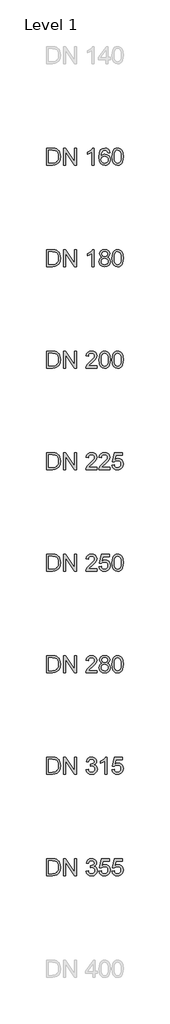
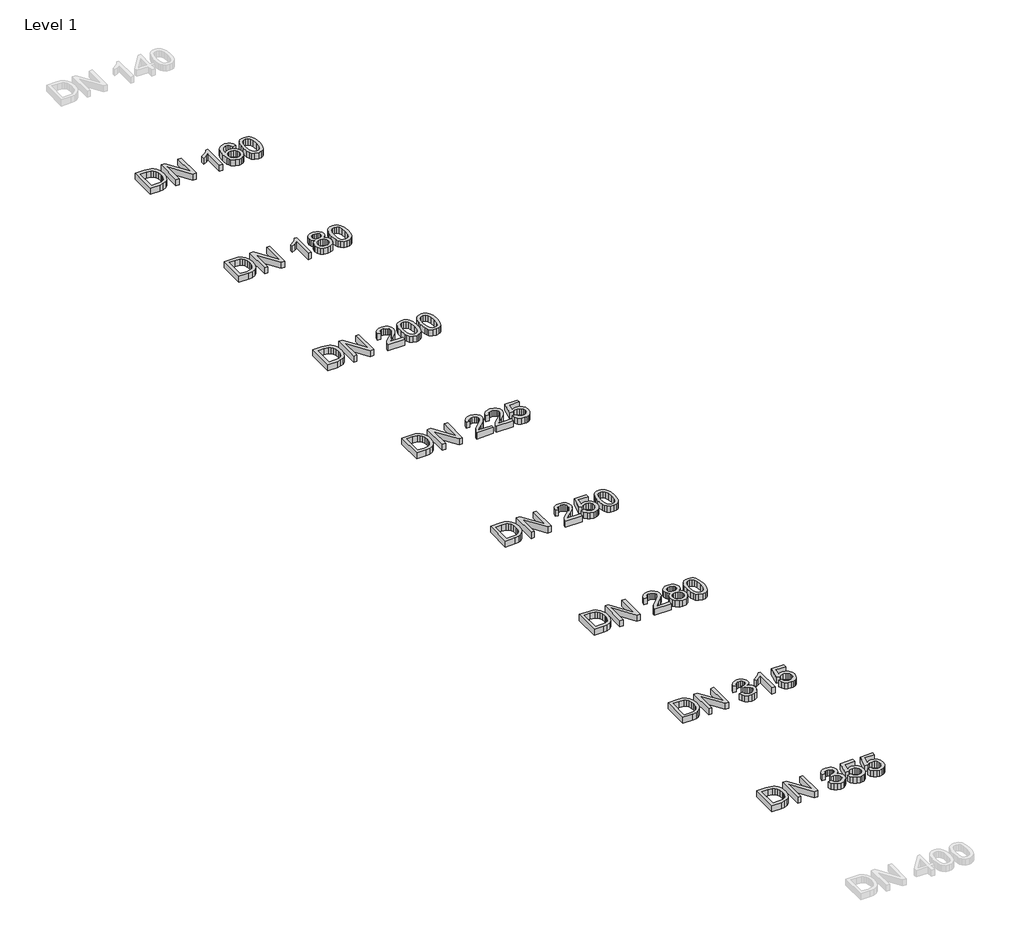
# One storey, part 3 of 17: 8 proxies.
"""IFC4 building model written with IfcOpenShell, lengths in millimetres."""

from ifc_helpers import new_model, si_unit, origin, origin_with_axes, place, context, project, spatial, polyline, outline, extrude, element, save

model = new_model("IFC4")

# Units and contexts
model_context = context("Model", 3, world=origin())
ifc_project = project(units=[si_unit("LENGTHUNIT", "METRE", prefix="MILLI")], contexts=[model_context])

# Site, building, storey
site = spatial("IfcSite", under=ifc_project)
building = spatial("IfcBuilding", under=site)
storey = spatial("IfcBuildingStorey", under=building, Name="Level 1", Elevation=0.0)

# Proxies
placement = place(None, origin())
element("IfcBuildingElementProxy", 1, Name="200mm Arial", ObjectType="200mm Arial", at=placement, inside=storey, context=model_context, shape_type="SweptSolid", body=[
    extrude(outline(polyline([(-19491.3116028, -41313.949573), (-19491.3116028, -41113.0369527), (-19422.0026349, -41113.0369527), (-19386.1464031, -41115.9309577), (-19370.1312736, -41121.5105013), (-19356.6177416, -41130.302881), (-19342.724065, -41145.606772), (-19332.8280393, -41164.6385338), (-19326.9051392, -41187.0302846), (-19324.9308391, -41212.4141423), (-19330.2773908, -41252.9547382), (-19344.0116519, -41282.2136195), (-19362.3567008, -41300.436041), (-19386.3671323, -41310.5160077), (-19418.6671715, -41313.949573), (-19491.3116028, -41313.949573)]), holes=[polyline([(-19466.1975253, -41288.8354954), (-19421.7573803, -41288.8354954), (-19389.4328156, -41285.2057264), (-19370.7934612, -41274.9540815), (-19362.0685265, -41264.0831685), (-19355.5140957, -41250.0116822), (-19351.4122114, -41232.6783089), (-19350.0449167, -41212.0217348), (-19352.7243239, -41184.6513144), (-19360.7625455, -41164.4423301), (-19372.6390025, -41150.5609162), (-19386.8331162, -41142.1732067), (-19422.4440933, -41138.1510302), (-19466.1975253, -41138.1510302), (-19466.1975253, -41288.8354954)])]), origin_with_axes(), (0.0, 0.0, 1.0), 50.0),
    extrude(outline(polyline([(-19290.3989825, -41313.949573), (-19290.3989825, -41113.0369527), (-19263.5190714, -41113.0369527), (-19158.5500754, -41272.2072292), (-19158.5500754, -41113.0369527), (-19133.4359979, -41113.0369527), (-19133.4359979, -41313.949573), (-19160.315909, -41313.949573), (-19265.284905, -41154.7302454), (-19265.284905, -41313.949573), (-19290.3989825, -41313.949573)])), origin_with_axes(), (0.0, 0.0, 1.0), 50.0),
    extrude(outline(polyline([(-18926.2448582, -41313.949573), (-18951.3589358, -41313.949573), (-18951.3589358, -41157.3789958), (-18975.1486381, -41174.3260931), (-19001.5870908, -41187.0057592), (-19001.5870908, -41163.2651077), (-18964.7743658, -41139.769711), (-18951.3037535, -41126.1948653), (-18942.431666, -41113.0369527), (-18926.2448582, -41113.0369527), (-18926.2448582, -41313.949573)])), origin_with_axes(), (0.0, 0.0, 1.0), 50.0),
    extrude(outline(polyline([(-18737.8892767, -41166.4043674), (-18763.0033542, -41169.5436271), (-18772.5192352, -41148.5988789), (-18783.9113143, -41140.7629924), (-18797.6823636, -41138.1510302), (-18820.3438945, -41144.2333458), (-18829.7800677, -41153.8411973), (-18837.4871955, -41167.066555), (-18842.6927257, -41185.7733545), (-18844.6241062, -41211.8255311), (-18834.5502709, -41200.0717013), (-18822.4776101, -41191.7882251), (-18809.0805741, -41186.8770005), (-18795.0336133, -41185.2399256), (-18771.8325221, -41189.7158232), (-18752.3593018, -41203.143516), (-18739.1523382, -41223.6590686), (-18734.750017, -41249.3985455), (-18736.8224189, -41267.3818437), (-18743.0396246, -41284.0530295), (-18752.8865994, -41298.1919608), (-18765.8483083, -41308.5784958), (-18781.3361403, -41314.9612484), (-18798.7614842, -41317.0888326), (-18827.2539447, -41311.4479754), (-18849.9461324, -41294.5254036), (-18858.6051549, -41281.4165418), (-18864.7901709, -41264.6533856), (-18869.7381838, -41220.1641897), (-18864.2444793, -41170.144501), (-18857.3773487, -41151.0667539), (-18847.7633659, -41135.9437382), (-18837.3431084, -41125.9220195), (-18825.2612505, -41118.763649), (-18796.1127338, -41113.0369527), (-18774.0766023, -41116.5808825), (-18756.4305292, -41127.2126722), (-18744.0696942, -41144.0984558), (-18737.8892767, -41166.4043674)]), holes=[polyline([(-18844.6241062, -41249.0061381), (-18838.8115707, -41270.7602267), (-18823.3605269, -41286.554627), (-18800.7235215, -41291.9747551), (-18784.1504376, -41289.1665892), (-18771.1212836, -41280.7420915), (-18762.6783918, -41267.4983397), (-18759.8640945, -41250.2324114), (-18762.6416036, -41233.6593275), (-18770.9741308, -41221.022581), (-18784.224014, -41213.0211476), (-18801.7535911, -41210.3540031), (-18818.3021495, -41213.0211476), (-18832.1406439, -41221.022581), (-18841.5032406, -41233.3527592), (-18844.6241062, -41249.0061381)])]), origin_with_axes(), (0.0, 0.0, 1.0), 50.0),
    extrude(outline(polyline([(-18712.7751992, -41215.1119436), (-18710.9296578, -41182.9529258), (-18705.3930338, -41157.3054194), (-18696.2205094, -41137.7770168), (-18683.4672669, -41123.9753106), (-18667.0413358, -41115.7715422), (-18646.8507456, -41113.0369527), (-18631.3751764, -41114.6556334), (-18617.5182879, -41119.5116758), (-18605.930005, -41127.4150073), (-18597.2602527, -41138.1755557), (-18585.4880288, -41167.9004209), (-18580.9262921, -41215.1119436), (-18582.7534393, -41247.0870203), (-18588.2348811, -41272.6732131), (-18597.3522232, -41292.2200098), (-18610.0870716, -41306.0768983), (-18626.5497909, -41314.335849), (-18646.8507456, -41317.0888326), (-18672.9458418, -41312.3063667), (-18692.7624186, -41297.9589689), (-18701.5180101, -41282.8298218), (-18707.772004, -41263.9789353), (-18712.7751992, -41215.1119436)]), holes=[polyline([(-18687.6611216, -41215.0628927), (-18684.7180657, -41254.5672876), (-18675.8888978, -41277.4311536), (-18662.7432478, -41288.3388547), (-18646.8507456, -41291.9747551), (-18630.9582434, -41288.326592), (-18617.8125935, -41277.3821026), (-18608.9834256, -41254.5059739), (-18606.0403696, -41215.0628927), (-18608.8853237, -41176.4475459), (-18617.420186, -41153.4058703), (-18630.5413105, -41141.9647402), (-18647.1450512, -41138.1510302), (-18662.8658751, -41141.5110191), (-18675.4964903, -41151.5909857), (-18684.6199638, -41176.0674012), (-18687.6611216, -41215.0628927)])]), origin_with_axes(), (0.0, 0.0, 1.0), 50.0),
])
element("IfcBuildingElementProxy", 2, Name="200mm Arial", ObjectType="200mm Arial", at=placement, inside=storey, context=model_context, shape_type="SweptSolid", body=[
    extrude(outline(polyline([(-19491.3116028, -43713.949573), (-19491.3116028, -43513.0369527), (-19422.0026349, -43513.0369527), (-19386.1464031, -43515.9309577), (-19370.1312736, -43521.5105013), (-19356.6177416, -43530.302881), (-19342.724065, -43545.606772), (-19332.8280393, -43564.6385338), (-19326.9051392, -43587.0302846), (-19324.9308391, -43612.4141423), (-19330.2773908, -43652.9547382), (-19344.0116519, -43682.2136195), (-19362.3567008, -43700.436041), (-19386.3671323, -43710.5160077), (-19418.6671715, -43713.949573), (-19491.3116028, -43713.949573)]), holes=[polyline([(-19466.1975253, -43688.8354954), (-19421.7573803, -43688.8354954), (-19389.4328156, -43685.2057264), (-19370.7934612, -43674.9540815), (-19362.0685265, -43664.0831685), (-19355.5140957, -43650.0116822), (-19351.4122114, -43632.6783089), (-19350.0449167, -43612.0217348), (-19352.7243239, -43584.6513144), (-19360.7625455, -43564.4423301), (-19372.6390025, -43550.5609162), (-19386.8331162, -43542.1732067), (-19422.4440933, -43538.1510302), (-19466.1975253, -43538.1510302), (-19466.1975253, -43688.8354954)])]), origin_with_axes(), (0.0, 0.0, 1.0), 50.0),
    extrude(outline(polyline([(-19290.3989825, -43713.949573), (-19290.3989825, -43513.0369527), (-19263.5190714, -43513.0369527), (-19158.5500754, -43672.2072292), (-19158.5500754, -43513.0369527), (-19133.4359979, -43513.0369527), (-19133.4359979, -43713.949573), (-19160.315909, -43713.949573), (-19265.284905, -43554.7302454), (-19265.284905, -43713.949573), (-19290.3989825, -43713.949573)])), origin_with_axes(), (0.0, 0.0, 1.0), 50.0),
    extrude(outline(polyline([(-18891.7130016, -43688.8354954), (-18891.7130016, -43713.949573), (-19023.5619087, -43713.949573), (-19020.8641074, -43696.6345937), (-19005.6092673, -43669.9754118), (-18974.1676195, -43640.8636832), (-18930.806595, -43599.0232377), (-18922.6764029, -43584.6022634), (-18919.9663388, -43570.5736967), (-18922.5231187, -43557.9982638), (-18930.1934583, -43547.5442838), (-18941.9840762, -43540.4993436), (-18956.9016912, -43538.1510302), (-18972.5673328, -43540.4441613), (-18984.7380955, -43547.3235546), (-18992.5923761, -43558.2496499), (-18995.3085714, -43572.6828868), (-19020.422649, -43569.5436271), (-19014.334202, -43545.2511527), (-19001.1701579, -43527.5069778), (-18981.6172299, -43516.6544589), (-18956.3621309, -43513.0369527), (-18930.9230909, -43517.0591291), (-18911.4069511, -43529.1256586), (-18898.9909337, -43547.1518763), (-18894.8522613, -43569.0531178), (-18899.3158962, -43592.8673456), (-18914.1538033, -43617.4909138), (-18950.1326624, -43651.9001431), (-18979.0236618, -43676.0577275), (-18990.3544272, -43688.8354954), (-18891.7130016, -43688.8354954)])), origin_with_axes(), (0.0, 0.0, 1.0), 50.0),
    extrude(outline(polyline([(-18866.5989241, -43615.1119436), (-18864.7533827, -43582.9529258), (-18859.2167587, -43557.3054194), (-18850.0442343, -43537.7770168), (-18837.2909918, -43523.9753106), (-18820.8650607, -43515.7715422), (-18800.6744705, -43513.0369527), (-18785.1989013, -43514.6556334), (-18771.3420128, -43519.5116758), (-18759.7537299, -43527.4150073), (-18751.0839776, -43538.1755557), (-18739.3117537, -43567.9004209), (-18734.750017, -43615.1119436), (-18736.5771642, -43647.0870203), (-18742.058606, -43672.6732131), (-18751.1759481, -43692.2200098), (-18763.9107965, -43706.0768983), (-18780.3735158, -43714.335849), (-18800.6744705, -43717.0888326), (-18826.7695667, -43712.3063667), (-18846.5861435, -43697.9589689), (-18855.341735, -43682.8298218), (-18861.5957289, -43663.9789353), (-18866.5989241, -43615.1119436)]), holes=[polyline([(-18841.4848465, -43615.0628927), (-18838.5417906, -43654.5672876), (-18829.7126227, -43677.4311536), (-18816.5669727, -43688.3388547), (-18800.6744705, -43691.9747551), (-18784.7819683, -43688.326592), (-18771.6363184, -43677.3821026), (-18762.8071505, -43654.5059739), (-18759.8640945, -43615.0628927), (-18762.7090486, -43576.4475459), (-18771.2439109, -43553.4058703), (-18784.3650354, -43541.9647402), (-18800.9687761, -43538.1510302), (-18816.6896001, -43541.5110191), (-18829.3202152, -43551.5909857), (-18838.4436887, -43576.0674012), (-18841.4848465, -43615.0628927)])]), origin_with_axes(), (0.0, 0.0, 1.0), 50.0),
    extrude(outline(polyline([(-18712.7751992, -43615.1119436), (-18710.9296578, -43582.9529258), (-18705.3930338, -43557.3054194), (-18696.2205094, -43537.7770168), (-18683.4672669, -43523.9753106), (-18667.0413358, -43515.7715422), (-18646.8507456, -43513.0369527), (-18631.3751764, -43514.6556334), (-18617.5182879, -43519.5116758), (-18605.930005, -43527.4150073), (-18597.2602527, -43538.1755557), (-18585.4880288, -43567.9004209), (-18580.9262921, -43615.1119436), (-18582.7534393, -43647.0870203), (-18588.2348811, -43672.6732131), (-18597.3522232, -43692.2200098), (-18610.0870716, -43706.0768983), (-18626.5497909, -43714.335849), (-18646.8507456, -43717.0888326), (-18672.9458418, -43712.3063667), (-18692.7624186, -43697.9589689), (-18701.5180101, -43682.8298218), (-18707.772004, -43663.9789353), (-18712.7751992, -43615.1119436)]), holes=[polyline([(-18687.6611216, -43615.0628927), (-18684.7180657, -43654.5672876), (-18675.8888978, -43677.4311536), (-18662.7432478, -43688.3388547), (-18646.8507456, -43691.9747551), (-18630.9582434, -43688.326592), (-18617.8125935, -43677.3821026), (-18608.9834256, -43654.5059739), (-18606.0403696, -43615.0628927), (-18608.8853237, -43576.4475459), (-18617.420186, -43553.4058703), (-18630.5413105, -43541.9647402), (-18647.1450512, -43538.1510302), (-18662.8658751, -43541.5110191), (-18675.4964903, -43551.5909857), (-18684.6199638, -43576.0674012), (-18687.6611216, -43615.0628927)])]), origin_with_axes(), (0.0, 0.0, 1.0), 50.0),
])
element("IfcBuildingElementProxy", 3, Name="200mm Arial", ObjectType="200mm Arial", at=placement, inside=storey, context=model_context, shape_type="SweptSolid", body=[
    extrude(outline(polyline([(-19491.3116028, -46113.949573), (-19491.3116028, -45913.0369527), (-19422.0026349, -45913.0369527), (-19386.1464031, -45915.9309577), (-19370.1312736, -45921.5105013), (-19356.6177416, -45930.302881), (-19342.724065, -45945.606772), (-19332.8280393, -45964.6385338), (-19326.9051392, -45987.0302846), (-19324.9308391, -46012.4141423), (-19330.2773908, -46052.9547382), (-19344.0116519, -46082.2136195), (-19362.3567008, -46100.436041), (-19386.3671323, -46110.5160077), (-19418.6671715, -46113.949573), (-19491.3116028, -46113.949573)]), holes=[polyline([(-19466.1975253, -46088.8354954), (-19421.7573803, -46088.8354954), (-19389.4328156, -46085.2057264), (-19370.7934612, -46074.9540815), (-19362.0685265, -46064.0831685), (-19355.5140957, -46050.0116822), (-19351.4122114, -46032.6783089), (-19350.0449167, -46012.0217348), (-19352.7243239, -45984.6513144), (-19360.7625455, -45964.4423301), (-19372.6390025, -45950.5609162), (-19386.8331162, -45942.1732067), (-19422.4440933, -45938.1510302), (-19466.1975253, -45938.1510302), (-19466.1975253, -46088.8354954)])]), origin_with_axes(), (0.0, 0.0, 1.0), 50.0),
    extrude(outline(polyline([(-19290.3989825, -46113.949573), (-19290.3989825, -45913.0369527), (-19263.5190714, -45913.0369527), (-19158.5500754, -46072.2072292), (-19158.5500754, -45913.0369527), (-19133.4359979, -45913.0369527), (-19133.4359979, -46113.949573), (-19160.315909, -46113.949573), (-19265.284905, -45954.7302454), (-19265.284905, -46113.949573), (-19290.3989825, -46113.949573)])), origin_with_axes(), (0.0, 0.0, 1.0), 50.0),
    extrude(outline(polyline([(-18891.7130016, -46088.8354954), (-18891.7130016, -46113.949573), (-19023.5619087, -46113.949573), (-19020.8641074, -46096.6345937), (-19005.6092673, -46069.9754118), (-18974.1676195, -46040.8636832), (-18930.806595, -45999.0232377), (-18922.6764029, -45984.6022634), (-18919.9663388, -45970.5736967), (-18922.5231187, -45957.9982638), (-18930.1934583, -45947.5442838), (-18941.9840762, -45940.4993436), (-18956.9016912, -45938.1510302), (-18972.5673328, -45940.4441613), (-18984.7380955, -45947.3235546), (-18992.5923761, -45958.2496499), (-18995.3085714, -45972.6828868), (-19020.422649, -45969.5436271), (-19014.334202, -45945.2511527), (-19001.1701579, -45927.5069778), (-18981.6172299, -45916.6544589), (-18956.3621309, -45913.0369527), (-18930.9230909, -45917.0591291), (-18911.4069511, -45929.1256586), (-18898.9909337, -45947.1518763), (-18894.8522613, -45969.0531178), (-18899.3158962, -45992.8673456), (-18914.1538033, -46017.4909138), (-18950.1326624, -46051.9001431), (-18979.0236618, -46076.0577275), (-18990.3544272, -46088.8354954), (-18891.7130016, -46088.8354954)])), origin_with_axes(), (0.0, 0.0, 1.0), 50.0),
    extrude(outline(polyline([(-18866.5989241, -46060.5821582), (-18841.4848465, -46057.4428985), (-18836.8740589, -46072.5199289), (-18828.8297059, -46083.3172655), (-18817.3885758, -46089.8103827), (-18802.5874569, -46091.9747551), (-18784.5857646, -46088.9642541), (-18771.0967581, -46079.9327511), (-18762.6722604, -46065.9225785), (-18759.8640945, -46047.9760685), (-18762.4944508, -46031.0780222), (-18770.3855196, -46018.1531014), (-18783.5986146, -46009.9493329), (-18802.1950494, -46007.2147434), (-18824.2434437, -46011.5802764), (-18838.3455868, -46022.9110419), (-18863.4596644, -46019.7717822), (-18841.4848465, -45916.1762123), (-18744.1677961, -45916.1762123), (-18744.1677961, -45941.2902899), (-18821.1777604, -45941.2902899), (-18831.9199147, -45996.619742), (-18813.979536, -45985.7304349), (-18795.1807661, -45982.1006659), (-18771.7160261, -45986.601089), (-18752.2366745, -46000.1023582), (-18739.1216814, -46020.6792244), (-18734.750017, -46046.4064386), (-18738.6863543, -46071.5205162), (-18750.4953664, -46093.0048247), (-18760.9309523, -46103.5415782), (-18773.1078464, -46111.0678307), (-18787.0260485, -46115.5835821), (-18802.6855588, -46117.0888326), (-18827.3520466, -46113.2199403), (-18847.0030765, -46101.6132634), (-18860.4736888, -46083.6177025), (-18866.5989241, -46060.5821582)])), origin_with_axes(), (0.0, 0.0, 1.0), 50.0),
    extrude(outline(polyline([(-18712.7751992, -46015.1119436), (-18710.9296578, -45982.9529258), (-18705.3930338, -45957.3054194), (-18696.2205094, -45937.7770168), (-18683.4672669, -45923.9753106), (-18667.0413358, -45915.7715422), (-18646.8507456, -45913.0369527), (-18631.3751764, -45914.6556334), (-18617.5182879, -45919.5116758), (-18605.930005, -45927.4150073), (-18597.2602527, -45938.1755557), (-18585.4880288, -45967.9004209), (-18580.9262921, -46015.1119436), (-18582.7534393, -46047.0870203), (-18588.2348811, -46072.6732131), (-18597.3522232, -46092.2200098), (-18610.0870716, -46106.0768983), (-18626.5497909, -46114.335849), (-18646.8507456, -46117.0888326), (-18672.9458418, -46112.3063667), (-18692.7624186, -46097.9589689), (-18701.5180101, -46082.8298218), (-18707.772004, -46063.9789353), (-18712.7751992, -46015.1119436)]), holes=[polyline([(-18687.6611216, -46015.0628927), (-18684.7180657, -46054.5672876), (-18675.8888978, -46077.4311536), (-18662.7432478, -46088.3388547), (-18646.8507456, -46091.9747551), (-18630.9582434, -46088.326592), (-18617.8125935, -46077.3821026), (-18608.9834256, -46054.5059739), (-18606.0403696, -46015.0628927), (-18608.8853237, -45976.4475459), (-18617.420186, -45953.4058703), (-18630.5413105, -45941.9647402), (-18647.1450512, -45938.1510302), (-18662.8658751, -45941.5110191), (-18675.4964903, -45951.5909857), (-18684.6199638, -45976.0674012), (-18687.6611216, -46015.0628927)])]), origin_with_axes(), (0.0, 0.0, 1.0), 50.0),
])
element("IfcBuildingElementProxy", 4, Name="200mm Arial", ObjectType="200mm Arial", at=placement, inside=storey, context=model_context, shape_type="SweptSolid", body=[
    extrude(outline(polyline([(-19491.3116028, -48513.949573), (-19491.3116028, -48313.0369527), (-19422.0026349, -48313.0369527), (-19386.1464031, -48315.9309577), (-19370.1312736, -48321.5105013), (-19356.6177416, -48330.302881), (-19342.724065, -48345.606772), (-19332.8280393, -48364.6385338), (-19326.9051392, -48387.0302846), (-19324.9308391, -48412.4141423), (-19330.2773908, -48452.9547382), (-19344.0116519, -48482.2136195), (-19362.3567008, -48500.436041), (-19386.3671323, -48510.5160077), (-19418.6671715, -48513.949573), (-19491.3116028, -48513.949573)]), holes=[polyline([(-19466.1975253, -48488.8354954), (-19421.7573803, -48488.8354954), (-19389.4328156, -48485.2057264), (-19370.7934612, -48474.9540815), (-19362.0685265, -48464.0831685), (-19355.5140957, -48450.0116822), (-19351.4122114, -48432.6783089), (-19350.0449167, -48412.0217348), (-19352.7243239, -48384.6513144), (-19360.7625455, -48364.4423301), (-19372.6390025, -48350.5609162), (-19386.8331162, -48342.1732067), (-19422.4440933, -48338.1510302), (-19466.1975253, -48338.1510302), (-19466.1975253, -48488.8354954)])]), origin_with_axes(), (0.0, 0.0, 1.0), 50.0),
    extrude(outline(polyline([(-19290.3989825, -48513.949573), (-19290.3989825, -48313.0369527), (-19263.5190714, -48313.0369527), (-19158.5500754, -48472.2072292), (-19158.5500754, -48313.0369527), (-19133.4359979, -48313.0369527), (-19133.4359979, -48513.949573), (-19160.315909, -48513.949573), (-19265.284905, -48354.7302454), (-19265.284905, -48513.949573), (-19290.3989825, -48513.949573)])), origin_with_axes(), (0.0, 0.0, 1.0), 50.0),
    extrude(outline(polyline([(-19020.422649, -48460.5821582), (-18995.3085714, -48457.4428985), (-18989.6861083, -48473.2250361), (-18981.451683, -48483.8813512), (-18970.2006253, -48489.9514041), (-18955.528265, -48491.9747551), (-18938.3113877, -48489.1911147), (-18925.0185849, -48480.8401934), (-18916.5205108, -48468.3812565), (-18913.6878195, -48453.2735692), (-18916.4959853, -48438.9323028), (-18924.920483, -48427.3011004), (-18937.6737255, -48419.5939726), (-18953.4681259, -48417.02493), (-18971.0774107, -48419.7717822), (-18968.2815075, -48394.6577047), (-18964.2593311, -48394.9520102), (-18949.2129575, -48393.1493885), (-18935.7607392, -48387.7415231), (-18926.2693837, -48378.5935242), (-18923.1055985, -48365.5705016), (-18925.3987296, -48354.7241141), (-18932.2781229, -48345.925603), (-18942.7750225, -48340.0946734), (-18955.9206725, -48338.1510302), (-18969.0908479, -48340.1130675), (-18979.8575277, -48345.9991794), (-18987.7179396, -48355.809366), (-18992.1693118, -48369.5436271), (-19017.2833893, -48366.4043674), (-19009.8889612, -48343.8532011), (-18996.7310485, -48327.0164685), (-18978.7293562, -48316.5318316), (-18956.8035893, -48313.0369527), (-18941.0153203, -48314.7598667), (-18926.5146384, -48319.9286087), (-18914.2886934, -48328.0833263), (-18905.3246354, -48338.7641669), (-18899.8247996, -48351.0698196), (-18897.991521, -48364.0989736), (-18899.7328291, -48376.2390794), (-18904.9567534, -48387.2510138), (-18913.5897176, -48396.6320047), (-18925.5581452, -48403.87928), (-18909.8373212, -48410.2313758), (-18898.1877247, -48421.0471064), (-18890.9772376, -48435.7378608), (-18888.5737419, -48453.7150276), (-18893.3807333, -48478.191443), (-18907.8017075, -48498.645682), (-18929.5680589, -48512.478045), (-18956.4111818, -48517.0888326), (-18980.6913935, -48513.1524953), (-19000.4589194, -48501.3434833), (-19014.2054433, -48483.2804773), (-19020.422649, -48460.5821582)])), origin_with_axes(), (0.0, 0.0, 1.0), 50.0),
    extrude(outline(polyline([(-18772.4211333, -48513.949573), (-18797.5352108, -48513.949573), (-18797.5352108, -48357.3789958), (-18821.3249132, -48374.3260931), (-18847.7633659, -48387.0057592), (-18847.7633659, -48363.2651077), (-18810.9506409, -48339.769711), (-18797.4800285, -48326.1948653), (-18788.6079411, -48313.0369527), (-18772.4211333, -48313.0369527), (-18772.4211333, -48513.949573)])), origin_with_axes(), (0.0, 0.0, 1.0), 50.0),
    extrude(outline(polyline([(-18712.7751992, -48460.5821582), (-18687.6611216, -48457.4428985), (-18683.0503339, -48472.5199289), (-18675.005981, -48483.3172655), (-18663.5648509, -48489.8103827), (-18648.763732, -48491.9747551), (-18630.7620397, -48488.9642541), (-18617.2730332, -48479.9327511), (-18608.8485355, -48465.9225785), (-18606.0403696, -48447.9760685), (-18608.6707259, -48431.0780222), (-18616.5617947, -48418.1531014), (-18629.7748897, -48409.9493329), (-18648.3713245, -48407.2147434), (-18670.4197188, -48411.5802764), (-18684.5218619, -48422.9110419), (-18709.6359395, -48419.7717822), (-18687.6611216, -48316.1762123), (-18590.3440712, -48316.1762123), (-18590.3440712, -48341.2902899), (-18667.3540355, -48341.2902899), (-18678.0961897, -48396.619742), (-18660.1558111, -48385.7304349), (-18641.3570412, -48382.1006659), (-18617.8923012, -48386.601089), (-18598.4129496, -48400.1023582), (-18585.2979565, -48420.6792244), (-18580.9262921, -48446.4064386), (-18584.8626294, -48471.5205162), (-18596.6716415, -48493.0048247), (-18607.1072274, -48503.5415782), (-18619.2841214, -48511.0678307), (-18633.2023236, -48515.5835821), (-18648.8618339, -48517.0888326), (-18673.5283216, -48513.2199403), (-18693.1793515, -48501.6132634), (-18706.6499639, -48483.6177025), (-18712.7751992, -48460.5821582)])), origin_with_axes(), (0.0, 0.0, 1.0), 50.0),
])
element("IfcBuildingElementProxy", 5, Name="200mm Arial", ObjectType="200mm Arial", at=placement, inside=storey, context=model_context, shape_type="SweptSolid", body=[
    extrude(outline(polyline([(-19491.3116028, -42513.949573), (-19491.3116028, -42313.0369527), (-19422.0026349, -42313.0369527), (-19386.1464031, -42315.9309577), (-19370.1312736, -42321.5105013), (-19356.6177416, -42330.302881), (-19342.724065, -42345.606772), (-19332.8280393, -42364.6385338), (-19326.9051392, -42387.0302846), (-19324.9308391, -42412.4141423), (-19330.2773908, -42452.9547382), (-19344.0116519, -42482.2136195), (-19362.3567008, -42500.436041), (-19386.3671323, -42510.5160077), (-19418.6671715, -42513.949573), (-19491.3116028, -42513.949573)]), holes=[polyline([(-19466.1975253, -42488.8354954), (-19421.7573803, -42488.8354954), (-19389.4328156, -42485.2057264), (-19370.7934612, -42474.9540815), (-19362.0685265, -42464.0831685), (-19355.5140957, -42450.0116822), (-19351.4122114, -42432.6783089), (-19350.0449167, -42412.0217348), (-19352.7243239, -42384.6513144), (-19360.7625455, -42364.4423301), (-19372.6390025, -42350.5609162), (-19386.8331162, -42342.1732067), (-19422.4440933, -42338.1510302), (-19466.1975253, -42338.1510302), (-19466.1975253, -42488.8354954)])]), origin_with_axes(), (0.0, 0.0, 1.0), 50.0),
    extrude(outline(polyline([(-19290.3989825, -42513.949573), (-19290.3989825, -42313.0369527), (-19263.5190714, -42313.0369527), (-19158.5500754, -42472.2072292), (-19158.5500754, -42313.0369527), (-19133.4359979, -42313.0369527), (-19133.4359979, -42513.949573), (-19160.315909, -42513.949573), (-19265.284905, -42354.7302454), (-19265.284905, -42513.949573), (-19290.3989825, -42513.949573)])), origin_with_axes(), (0.0, 0.0, 1.0), 50.0),
    extrude(outline(polyline([(-18926.2448582, -42513.949573), (-18951.3589358, -42513.949573), (-18951.3589358, -42357.3789958), (-18975.1486381, -42374.3260931), (-19001.5870908, -42387.0057592), (-19001.5870908, -42363.2651077), (-18964.7743658, -42339.769711), (-18951.3037535, -42326.1948653), (-18942.431666, -42313.0369527), (-18926.2448582, -42313.0369527), (-18926.2448582, -42513.949573)])), origin_with_axes(), (0.0, 0.0, 1.0), 50.0),
    extrude(outline(polyline([(-18830.0069283, -42403.2906688), (-18843.4530152, -42396.6687929), (-18852.8891884, -42387.6924722), (-18858.4626006, -42376.5456478), (-18860.3204047, -42363.4122605), (-18856.2737027, -42343.7796247), (-18844.1335969, -42327.5560287), (-18825.2612505, -42316.6667217), (-18801.0178271, -42313.0369527), (-18776.6272508, -42316.7525608), (-18757.5096498, -42327.8993853), (-18745.1488147, -42344.3804986), (-18741.0285364, -42364.0989736), (-18742.861815, -42376.8092965), (-18748.3616508, -42387.7660486), (-18757.5893575, -42396.687187), (-18770.6062488, -42403.2906688), (-18755.1490736, -42411.255314), (-18743.8980159, -42422.9846183), (-18737.0370167, -42437.9144959), (-18734.750017, -42455.4808612), (-18739.2872283, -42479.4912927), (-18752.8988621, -42499.332395), (-18773.9171868, -42512.6497232), (-18800.6744705, -42517.0888326), (-18827.4317543, -42512.6313291), (-18848.450079, -42499.2588186), (-18862.0617128, -42479.227644), (-18866.5989241, -42454.7941481), (-18864.2199538, -42436.5472012), (-18857.0830431, -42421.5376158), (-18845.5560739, -42410.2804267), (-18830.0069283, -42403.2906688)]), holes=[polyline([(-18835.2063271, -42364.1480245), (-18832.9806411, -42375.110908), (-18826.3035829, -42383.8664995), (-18815.3713562, -42389.6054586), (-18800.3801649, -42391.518445), (-18785.7384615, -42389.6177213), (-18774.9717818, -42383.9155504), (-18768.3499059, -42375.4542645), (-18766.1426139, -42365.276196), (-18768.4234823, -42354.7118513), (-18775.2660874, -42345.974654), (-18786.1799199, -42340.1069361), (-18800.6744705, -42338.1510302), (-18815.2609916, -42340.0640166), (-18826.1564301, -42345.8029757), (-18832.9438529, -42354.2152106), (-18835.2063271, -42364.1480245)]), polyline([(-18841.4848465, -42453.9112313), (-18837.2909918, -42472.8203659), (-18831.4845876, -42480.9321639), (-18822.4530846, -42486.97156), (-18800.4782668, -42491.9747551), (-18783.3840168, -42489.3443988), (-18770.5571979, -42481.45333), (-18762.5373704, -42469.5032966), (-18759.8640945, -42454.6960463), (-18762.6232095, -42439.6374099), (-18770.9005544, -42427.4237277), (-18784.0216789, -42419.3303238), (-18801.3121327, -42416.6325225), (-18818.1672594, -42419.2935356), (-18830.8653196, -42427.2765749), (-18838.8299648, -42439.2572652), (-18841.4848465, -42453.9112313)])]), origin_with_axes(), (0.0, 0.0, 1.0), 50.0),
    extrude(outline(polyline([(-18712.7751992, -42415.1119436), (-18710.9296578, -42382.9529258), (-18705.3930338, -42357.3054194), (-18696.2205094, -42337.7770168), (-18683.4672669, -42323.9753106), (-18667.0413358, -42315.7715422), (-18646.8507456, -42313.0369527), (-18631.3751764, -42314.6556334), (-18617.5182879, -42319.5116758), (-18605.930005, -42327.4150073), (-18597.2602527, -42338.1755557), (-18585.4880288, -42367.9004209), (-18580.9262921, -42415.1119436), (-18582.7534393, -42447.0870203), (-18588.2348811, -42472.6732131), (-18597.3522232, -42492.2200098), (-18610.0870716, -42506.0768983), (-18626.5497909, -42514.335849), (-18646.8507456, -42517.0888326), (-18672.9458418, -42512.3063667), (-18692.7624186, -42497.9589689), (-18701.5180101, -42482.8298218), (-18707.772004, -42463.9789353), (-18712.7751992, -42415.1119436)]), holes=[polyline([(-18687.6611216, -42415.0628927), (-18684.7180657, -42454.5672876), (-18675.8888978, -42477.4311536), (-18662.7432478, -42488.3388547), (-18646.8507456, -42491.9747551), (-18630.9582434, -42488.326592), (-18617.8125935, -42477.3821026), (-18608.9834256, -42454.5059739), (-18606.0403696, -42415.0628927), (-18608.8853237, -42376.4475459), (-18617.420186, -42353.4058703), (-18630.5413105, -42341.9647402), (-18647.1450512, -42338.1510302), (-18662.8658751, -42341.5110191), (-18675.4964903, -42351.5909857), (-18684.6199638, -42376.0674012), (-18687.6611216, -42415.0628927)])]), origin_with_axes(), (0.0, 0.0, 1.0), 50.0),
])
element("IfcBuildingElementProxy", 6, Name="200mm Arial", ObjectType="200mm Arial", at=placement, inside=storey, context=model_context, shape_type="SweptSolid", body=[
    extrude(outline(polyline([(-19491.3116028, -44913.949573), (-19491.3116028, -44713.0369527), (-19422.0026349, -44713.0369527), (-19386.1464031, -44715.9309577), (-19370.1312736, -44721.5105013), (-19356.6177416, -44730.302881), (-19342.724065, -44745.606772), (-19332.8280393, -44764.6385338), (-19326.9051392, -44787.0302846), (-19324.9308391, -44812.4141423), (-19330.2773908, -44852.9547382), (-19344.0116519, -44882.2136195), (-19362.3567008, -44900.436041), (-19386.3671323, -44910.5160077), (-19418.6671715, -44913.949573), (-19491.3116028, -44913.949573)]), holes=[polyline([(-19466.1975253, -44888.8354954), (-19421.7573803, -44888.8354954), (-19389.4328156, -44885.2057264), (-19370.7934612, -44874.9540815), (-19362.0685265, -44864.0831685), (-19355.5140957, -44850.0116822), (-19351.4122114, -44832.6783089), (-19350.0449167, -44812.0217348), (-19352.7243239, -44784.6513144), (-19360.7625455, -44764.4423301), (-19372.6390025, -44750.5609162), (-19386.8331162, -44742.1732067), (-19422.4440933, -44738.1510302), (-19466.1975253, -44738.1510302), (-19466.1975253, -44888.8354954)])]), origin_with_axes(), (0.0, 0.0, 1.0), 50.0),
    extrude(outline(polyline([(-19290.3989825, -44913.949573), (-19290.3989825, -44713.0369527), (-19263.5190714, -44713.0369527), (-19158.5500754, -44872.2072292), (-19158.5500754, -44713.0369527), (-19133.4359979, -44713.0369527), (-19133.4359979, -44913.949573), (-19160.315909, -44913.949573), (-19265.284905, -44754.7302454), (-19265.284905, -44913.949573), (-19290.3989825, -44913.949573)])), origin_with_axes(), (0.0, 0.0, 1.0), 50.0),
    extrude(outline(polyline([(-18891.7130016, -44888.8354954), (-18891.7130016, -44913.949573), (-19023.5619087, -44913.949573), (-19020.8641074, -44896.6345937), (-19005.6092673, -44869.9754118), (-18974.1676195, -44840.8636832), (-18930.806595, -44799.0232377), (-18922.6764029, -44784.6022634), (-18919.9663388, -44770.5736967), (-18922.5231187, -44757.9982638), (-18930.1934583, -44747.5442838), (-18941.9840762, -44740.4993436), (-18956.9016912, -44738.1510302), (-18972.5673328, -44740.4441613), (-18984.7380955, -44747.3235546), (-18992.5923761, -44758.2496499), (-18995.3085714, -44772.6828868), (-19020.422649, -44769.5436271), (-19014.334202, -44745.2511527), (-19001.1701579, -44727.5069778), (-18981.6172299, -44716.6544589), (-18956.3621309, -44713.0369527), (-18930.9230909, -44717.0591291), (-18911.4069511, -44729.1256586), (-18898.9909337, -44747.1518763), (-18894.8522613, -44769.0531178), (-18899.3158962, -44792.8673456), (-18914.1538033, -44817.4909138), (-18950.1326624, -44851.9001431), (-18979.0236618, -44876.0577275), (-18990.3544272, -44888.8354954), (-18891.7130016, -44888.8354954)])), origin_with_axes(), (0.0, 0.0, 1.0), 50.0),
    extrude(outline(polyline([(-18737.8892767, -44888.8354954), (-18737.8892767, -44913.949573), (-18869.7381838, -44913.949573), (-18867.0403825, -44896.6345937), (-18851.7855424, -44869.9754118), (-18820.3438945, -44840.8636832), (-18776.98287, -44799.0232377), (-18768.852678, -44784.6022634), (-18766.1426139, -44770.5736967), (-18768.6993938, -44757.9982638), (-18776.3697334, -44747.5442838), (-18788.1603513, -44740.4993436), (-18803.0779662, -44738.1510302), (-18818.7436079, -44740.4441613), (-18830.9143705, -44747.3235546), (-18838.7686511, -44758.2496499), (-18841.4848465, -44772.6828868), (-18866.5989241, -44769.5436271), (-18860.510477, -44745.2511527), (-18847.346433, -44727.5069778), (-18827.7935049, -44716.6544589), (-18802.538406, -44713.0369527), (-18777.099366, -44717.0591291), (-18757.5832262, -44729.1256586), (-18745.1672088, -44747.1518763), (-18741.0285364, -44769.0531178), (-18745.4921713, -44792.8673456), (-18760.3300784, -44817.4909138), (-18796.3089375, -44851.9001431), (-18825.1999369, -44876.0577275), (-18836.5307023, -44888.8354954), (-18737.8892767, -44888.8354954)])), origin_with_axes(), (0.0, 0.0, 1.0), 50.0),
    extrude(outline(polyline([(-18712.7751992, -44860.5821582), (-18687.6611216, -44857.4428985), (-18683.0503339, -44872.5199289), (-18675.005981, -44883.3172655), (-18663.5648509, -44889.8103827), (-18648.763732, -44891.9747551), (-18630.7620397, -44888.9642541), (-18617.2730332, -44879.9327511), (-18608.8485355, -44865.9225785), (-18606.0403696, -44847.9760685), (-18608.6707259, -44831.0780222), (-18616.5617947, -44818.1531014), (-18629.7748897, -44809.9493329), (-18648.3713245, -44807.2147434), (-18670.4197188, -44811.5802764), (-18684.5218619, -44822.9110419), (-18709.6359395, -44819.7717822), (-18687.6611216, -44716.1762123), (-18590.3440712, -44716.1762123), (-18590.3440712, -44741.2902899), (-18667.3540355, -44741.2902899), (-18678.0961897, -44796.619742), (-18660.1558111, -44785.7304349), (-18641.3570412, -44782.1006659), (-18617.8923012, -44786.601089), (-18598.4129496, -44800.1023582), (-18585.2979565, -44820.6792244), (-18580.9262921, -44846.4064386), (-18584.8626294, -44871.5205162), (-18596.6716415, -44893.0048247), (-18607.1072274, -44903.5415782), (-18619.2841214, -44911.0678307), (-18633.2023236, -44915.5835821), (-18648.8618339, -44917.0888326), (-18673.5283216, -44913.2199403), (-18693.1793515, -44901.6132634), (-18706.6499639, -44883.6177025), (-18712.7751992, -44860.5821582)])), origin_with_axes(), (0.0, 0.0, 1.0), 50.0),
])
element("IfcBuildingElementProxy", 7, Name="200mm Arial", ObjectType="200mm Arial", at=placement, inside=storey, context=model_context, shape_type="SweptSolid", body=[
    extrude(outline(polyline([(-19491.3116028, -47313.949573), (-19491.3116028, -47113.0369527), (-19422.0026349, -47113.0369527), (-19386.1464031, -47115.9309577), (-19370.1312736, -47121.5105013), (-19356.6177416, -47130.302881), (-19342.724065, -47145.606772), (-19332.8280393, -47164.6385338), (-19326.9051392, -47187.0302846), (-19324.9308391, -47212.4141423), (-19330.2773908, -47252.9547382), (-19344.0116519, -47282.2136195), (-19362.3567008, -47300.436041), (-19386.3671323, -47310.5160077), (-19418.6671715, -47313.949573), (-19491.3116028, -47313.949573)]), holes=[polyline([(-19466.1975253, -47288.8354954), (-19421.7573803, -47288.8354954), (-19389.4328156, -47285.2057264), (-19370.7934612, -47274.9540815), (-19362.0685265, -47264.0831685), (-19355.5140957, -47250.0116822), (-19351.4122114, -47232.6783089), (-19350.0449167, -47212.0217348), (-19352.7243239, -47184.6513144), (-19360.7625455, -47164.4423301), (-19372.6390025, -47150.5609162), (-19386.8331162, -47142.1732067), (-19422.4440933, -47138.1510302), (-19466.1975253, -47138.1510302), (-19466.1975253, -47288.8354954)])]), origin_with_axes(), (0.0, 0.0, 1.0), 50.0),
    extrude(outline(polyline([(-19290.3989825, -47313.949573), (-19290.3989825, -47113.0369527), (-19263.5190714, -47113.0369527), (-19158.5500754, -47272.2072292), (-19158.5500754, -47113.0369527), (-19133.4359979, -47113.0369527), (-19133.4359979, -47313.949573), (-19160.315909, -47313.949573), (-19265.284905, -47154.7302454), (-19265.284905, -47313.949573), (-19290.3989825, -47313.949573)])), origin_with_axes(), (0.0, 0.0, 1.0), 50.0),
    extrude(outline(polyline([(-18891.7130016, -47288.8354954), (-18891.7130016, -47313.949573), (-19023.5619087, -47313.949573), (-19020.8641074, -47296.6345937), (-19005.6092673, -47269.9754118), (-18974.1676195, -47240.8636832), (-18930.806595, -47199.0232377), (-18922.6764029, -47184.6022634), (-18919.9663388, -47170.5736967), (-18922.5231187, -47157.9982638), (-18930.1934583, -47147.5442838), (-18941.9840762, -47140.4993436), (-18956.9016912, -47138.1510302), (-18972.5673328, -47140.4441613), (-18984.7380955, -47147.3235546), (-18992.5923761, -47158.2496499), (-18995.3085714, -47172.6828868), (-19020.422649, -47169.5436271), (-19014.334202, -47145.2511527), (-19001.1701579, -47127.5069778), (-18981.6172299, -47116.6544589), (-18956.3621309, -47113.0369527), (-18930.9230909, -47117.0591291), (-18911.4069511, -47129.1256586), (-18898.9909337, -47147.1518763), (-18894.8522613, -47169.0531178), (-18899.3158962, -47192.8673456), (-18914.1538033, -47217.4909138), (-18950.1326624, -47251.9001431), (-18979.0236618, -47276.0577275), (-18990.3544272, -47288.8354954), (-18891.7130016, -47288.8354954)])), origin_with_axes(), (0.0, 0.0, 1.0), 50.0),
    extrude(outline(polyline([(-18830.0069283, -47203.2906688), (-18843.4530152, -47196.6687929), (-18852.8891884, -47187.6924722), (-18858.4626006, -47176.5456478), (-18860.3204047, -47163.4122605), (-18856.2737027, -47143.7796247), (-18844.1335969, -47127.5560287), (-18825.2612505, -47116.6667217), (-18801.0178271, -47113.0369527), (-18776.6272508, -47116.7525608), (-18757.5096498, -47127.8993853), (-18745.1488147, -47144.3804986), (-18741.0285364, -47164.0989736), (-18742.861815, -47176.8092965), (-18748.3616508, -47187.7660486), (-18757.5893575, -47196.687187), (-18770.6062488, -47203.2906688), (-18755.1490736, -47211.255314), (-18743.8980159, -47222.9846183), (-18737.0370167, -47237.9144959), (-18734.750017, -47255.4808612), (-18739.2872283, -47279.4912927), (-18752.8988621, -47299.332395), (-18773.9171868, -47312.6497232), (-18800.6744705, -47317.0888326), (-18827.4317543, -47312.6313291), (-18848.450079, -47299.2588186), (-18862.0617128, -47279.227644), (-18866.5989241, -47254.7941481), (-18864.2199538, -47236.5472012), (-18857.0830431, -47221.5376158), (-18845.5560739, -47210.2804267), (-18830.0069283, -47203.2906688)]), holes=[polyline([(-18841.4848465, -47253.9112313), (-18837.2909918, -47272.8203659), (-18831.4845876, -47280.9321639), (-18822.4530846, -47286.97156), (-18800.4782668, -47291.9747551), (-18783.3840168, -47289.3443988), (-18770.5571979, -47281.45333), (-18762.5373704, -47269.5032966), (-18759.8640945, -47254.6960463), (-18762.6232095, -47239.6374099), (-18770.9005544, -47227.4237277), (-18784.0216789, -47219.3303238), (-18801.3121327, -47216.6325225), (-18818.1672594, -47219.2935356), (-18830.8653196, -47227.2765749), (-18838.8299648, -47239.2572652), (-18841.4848465, -47253.9112313)]), polyline([(-18835.2063271, -47164.1480245), (-18832.9806411, -47175.110908), (-18826.3035829, -47183.8664995), (-18815.3713562, -47189.6054586), (-18800.3801649, -47191.518445), (-18785.7384615, -47189.6177213), (-18774.9717818, -47183.9155504), (-18768.3499059, -47175.4542645), (-18766.1426139, -47165.276196), (-18768.4234823, -47154.7118513), (-18775.2660874, -47145.974654), (-18786.1799199, -47140.1069361), (-18800.6744705, -47138.1510302), (-18815.2609916, -47140.0640166), (-18826.1564301, -47145.8029757), (-18832.9438529, -47154.2152106), (-18835.2063271, -47164.1480245)])]), origin_with_axes(), (0.0, 0.0, 1.0), 50.0),
    extrude(outline(polyline([(-18712.7751992, -47215.1119436), (-18710.9296578, -47182.9529258), (-18705.3930338, -47157.3054194), (-18696.2205094, -47137.7770168), (-18683.4672669, -47123.9753106), (-18667.0413358, -47115.7715422), (-18646.8507456, -47113.0369527), (-18631.3751764, -47114.6556334), (-18617.5182879, -47119.5116758), (-18605.930005, -47127.4150073), (-18597.2602527, -47138.1755557), (-18585.4880288, -47167.9004209), (-18580.9262921, -47215.1119436), (-18582.7534393, -47247.0870203), (-18588.2348811, -47272.6732131), (-18597.3522232, -47292.2200098), (-18610.0870716, -47306.0768983), (-18626.5497909, -47314.335849), (-18646.8507456, -47317.0888326), (-18672.9458418, -47312.3063667), (-18692.7624186, -47297.9589689), (-18701.5180101, -47282.8298218), (-18707.772004, -47263.9789353), (-18712.7751992, -47215.1119436)]), holes=[polyline([(-18687.6611216, -47215.0628927), (-18684.7180657, -47254.5672876), (-18675.8888978, -47277.4311536), (-18662.7432478, -47288.3388547), (-18646.8507456, -47291.9747551), (-18630.9582434, -47288.326592), (-18617.8125935, -47277.3821026), (-18608.9834256, -47254.5059739), (-18606.0403696, -47215.0628927), (-18608.8853237, -47176.4475459), (-18617.420186, -47153.4058703), (-18630.5413105, -47141.9647402), (-18647.1450512, -47138.1510302), (-18662.8658751, -47141.5110191), (-18675.4964903, -47151.5909857), (-18684.6199638, -47176.0674012), (-18687.6611216, -47215.0628927)])]), origin_with_axes(), (0.0, 0.0, 1.0), 50.0),
])
element("IfcBuildingElementProxy", 8, Name="200mm Arial", ObjectType="200mm Arial", at=placement, inside=storey, context=model_context, shape_type="SweptSolid", body=[
    extrude(outline(polyline([(-19491.3116028, -49713.949573), (-19491.3116028, -49513.0369527), (-19422.0026349, -49513.0369527), (-19386.1464031, -49515.9309577), (-19370.1312736, -49521.5105013), (-19356.6177416, -49530.302881), (-19342.724065, -49545.606772), (-19332.8280393, -49564.6385338), (-19326.9051392, -49587.0302846), (-19324.9308391, -49612.4141423), (-19330.2773908, -49652.9547382), (-19344.0116519, -49682.2136195), (-19362.3567008, -49700.436041), (-19386.3671323, -49710.5160077), (-19418.6671715, -49713.949573), (-19491.3116028, -49713.949573)]), holes=[polyline([(-19466.1975253, -49688.8354954), (-19421.7573803, -49688.8354954), (-19389.4328156, -49685.2057264), (-19370.7934612, -49674.9540815), (-19362.0685265, -49664.0831685), (-19355.5140957, -49650.0116822), (-19351.4122114, -49632.6783089), (-19350.0449167, -49612.0217348), (-19352.7243239, -49584.6513144), (-19360.7625455, -49564.4423301), (-19372.6390025, -49550.5609162), (-19386.8331162, -49542.1732067), (-19422.4440933, -49538.1510302), (-19466.1975253, -49538.1510302), (-19466.1975253, -49688.8354954)])]), origin_with_axes(), (0.0, 0.0, 1.0), 50.0),
    extrude(outline(polyline([(-19290.3989825, -49713.949573), (-19290.3989825, -49513.0369527), (-19263.5190714, -49513.0369527), (-19158.5500754, -49672.2072292), (-19158.5500754, -49513.0369527), (-19133.4359979, -49513.0369527), (-19133.4359979, -49713.949573), (-19160.315909, -49713.949573), (-19265.284905, -49554.7302454), (-19265.284905, -49713.949573), (-19290.3989825, -49713.949573)])), origin_with_axes(), (0.0, 0.0, 1.0), 50.0),
    extrude(outline(polyline([(-19020.422649, -49660.5821582), (-18995.3085714, -49657.4428985), (-18989.6861083, -49673.2250361), (-18981.451683, -49683.8813512), (-18970.2006253, -49689.9514041), (-18955.528265, -49691.9747551), (-18938.3113877, -49689.1911147), (-18925.0185849, -49680.8401934), (-18916.5205108, -49668.3812565), (-18913.6878195, -49653.2735692), (-18916.4959853, -49638.9323028), (-18924.920483, -49627.3011004), (-18937.6737255, -49619.5939726), (-18953.4681259, -49617.02493), (-18971.0774107, -49619.7717822), (-18968.2815075, -49594.6577047), (-18964.2593311, -49594.9520102), (-18949.2129575, -49593.1493885), (-18935.7607392, -49587.7415231), (-18926.2693837, -49578.5935242), (-18923.1055985, -49565.5705016), (-18925.3987296, -49554.7241141), (-18932.2781229, -49545.925603), (-18942.7750225, -49540.0946734), (-18955.9206725, -49538.1510302), (-18969.0908479, -49540.1130675), (-18979.8575277, -49545.9991794), (-18987.7179396, -49555.809366), (-18992.1693118, -49569.5436271), (-19017.2833893, -49566.4043674), (-19009.8889612, -49543.8532011), (-18996.7310485, -49527.0164685), (-18978.7293562, -49516.5318316), (-18956.8035893, -49513.0369527), (-18941.0153203, -49514.7598667), (-18926.5146384, -49519.9286087), (-18914.2886934, -49528.0833263), (-18905.3246354, -49538.7641669), (-18899.8247996, -49551.0698196), (-18897.991521, -49564.0989736), (-18899.7328291, -49576.2390794), (-18904.9567534, -49587.2510138), (-18913.5897176, -49596.6320047), (-18925.5581452, -49603.87928), (-18909.8373212, -49610.2313758), (-18898.1877247, -49621.0471064), (-18890.9772376, -49635.7378608), (-18888.5737419, -49653.7150276), (-18893.3807333, -49678.191443), (-18907.8017075, -49698.645682), (-18929.5680589, -49712.478045), (-18956.4111818, -49717.0888326), (-18980.6913935, -49713.1524953), (-19000.4589194, -49701.3434833), (-19014.2054433, -49683.2804773), (-19020.422649, -49660.5821582)])), origin_with_axes(), (0.0, 0.0, 1.0), 50.0),
    extrude(outline(polyline([(-18866.5989241, -49660.5821582), (-18841.4848465, -49657.4428985), (-18836.8740589, -49672.5199289), (-18828.8297059, -49683.3172655), (-18817.3885758, -49689.8103827), (-18802.5874569, -49691.9747551), (-18784.5857646, -49688.9642541), (-18771.0967581, -49679.9327511), (-18762.6722604, -49665.9225785), (-18759.8640945, -49647.9760685), (-18762.4944508, -49631.0780222), (-18770.3855196, -49618.1531014), (-18783.5986146, -49609.9493329), (-18802.1950494, -49607.2147434), (-18824.2434437, -49611.5802764), (-18838.3455868, -49622.9110419), (-18863.4596644, -49619.7717822), (-18841.4848465, -49516.1762123), (-18744.1677961, -49516.1762123), (-18744.1677961, -49541.2902899), (-18821.1777604, -49541.2902899), (-18831.9199147, -49596.619742), (-18813.979536, -49585.7304349), (-18795.1807661, -49582.1006659), (-18771.7160261, -49586.601089), (-18752.2366745, -49600.1023582), (-18739.1216814, -49620.6792244), (-18734.750017, -49646.4064386), (-18738.6863543, -49671.5205162), (-18750.4953664, -49693.0048247), (-18760.9309523, -49703.5415782), (-18773.1078464, -49711.0678307), (-18787.0260485, -49715.5835821), (-18802.6855588, -49717.0888326), (-18827.3520466, -49713.2199403), (-18847.0030765, -49701.6132634), (-18860.4736888, -49683.6177025), (-18866.5989241, -49660.5821582)])), origin_with_axes(), (0.0, 0.0, 1.0), 50.0),
    extrude(outline(polyline([(-18712.7751992, -49660.5821582), (-18687.6611216, -49657.4428985), (-18683.0503339, -49672.5199289), (-18675.005981, -49683.3172655), (-18663.5648509, -49689.8103827), (-18648.763732, -49691.9747551), (-18630.7620397, -49688.9642541), (-18617.2730332, -49679.9327511), (-18608.8485355, -49665.9225785), (-18606.0403696, -49647.9760685), (-18608.6707259, -49631.0780222), (-18616.5617947, -49618.1531014), (-18629.7748897, -49609.9493329), (-18648.3713245, -49607.2147434), (-18670.4197188, -49611.5802764), (-18684.5218619, -49622.9110419), (-18709.6359395, -49619.7717822), (-18687.6611216, -49516.1762123), (-18590.3440712, -49516.1762123), (-18590.3440712, -49541.2902899), (-18667.3540355, -49541.2902899), (-18678.0961897, -49596.619742), (-18660.1558111, -49585.7304349), (-18641.3570412, -49582.1006659), (-18617.8923012, -49586.601089), (-18598.4129496, -49600.1023582), (-18585.2979565, -49620.6792244), (-18580.9262921, -49646.4064386), (-18584.8626294, -49671.5205162), (-18596.6716415, -49693.0048247), (-18607.1072274, -49703.5415782), (-18619.2841214, -49711.0678307), (-18633.2023236, -49715.5835821), (-18648.8618339, -49717.0888326), (-18673.5283216, -49713.2199403), (-18693.1793515, -49701.6132634), (-18706.6499639, -49683.6177025), (-18712.7751992, -49660.5821582)])), origin_with_axes(), (0.0, 0.0, 1.0), 50.0),
])

save(model, "model.ifc")
